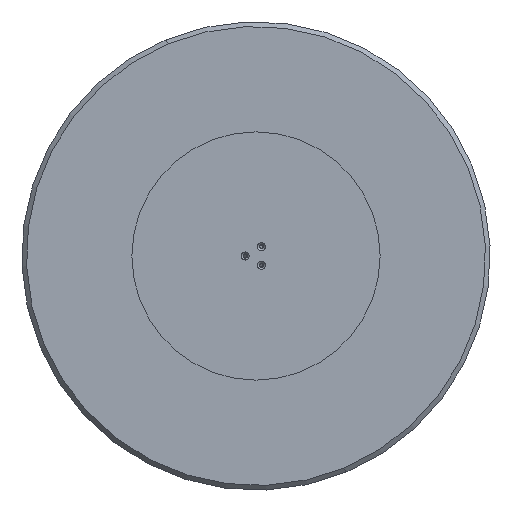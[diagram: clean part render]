
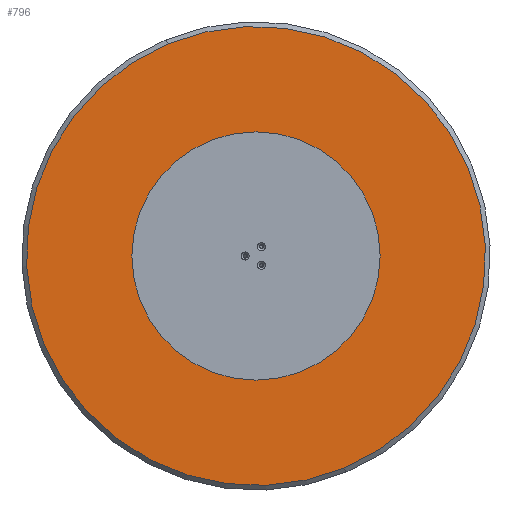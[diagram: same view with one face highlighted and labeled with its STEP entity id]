
A CAD part, front view. The second image highlights one B-rep face of the part: STEP entity #796.
In plain terms, the highlighted planar face has unit normal (0, -1, 0).
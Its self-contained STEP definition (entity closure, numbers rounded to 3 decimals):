
#26 = DIRECTION ( 'NONE',  ( 0., 0., -1. ) ) ;
#27 = DIRECTION ( 'NONE',  ( 0., -1., 0. ) ) ;
#195 = FACE_OUTER_BOUND ( 'NONE', #6294, .T. ) ;
#264 = CARTESIAN_POINT ( 'NONE',  ( 0., 0., 490. ) ) ;
#293 = PLANE ( 'NONE',  #2758 ) ;
#422 = DIRECTION ( 'NONE',  ( 0., -1., 0. ) ) ;
#461 = VERTEX_POINT ( 'NONE', #4351 ) ;
#732 = VERTEX_POINT ( 'NONE', #3733 ) ;
#742 = DIRECTION ( 'NONE',  ( 0., -1., 0. ) ) ;
#796 = ADVANCED_FACE ( 'NONE', ( #4154, #1210, #6166, #2268, #195 ), #293, .T. ) ;
#801 = VERTEX_POINT ( 'NONE', #264 ) ;
#863 = DIRECTION ( 'NONE',  ( 0., 0., -1. ) ) ;
#889 = CARTESIAN_POINT ( 'NONE',  ( -95., 0., -54.848 ) ) ;
#890 = ORIENTED_EDGE ( 'NONE', *, *, #3340, .F. ) ;
#949 = EDGE_LOOP ( 'NONE', ( #4173, #890 ) ) ;
#972 = CARTESIAN_POINT ( 'NONE',  ( 0., 0., 113.097 ) ) ;
#1088 = CARTESIAN_POINT ( 'NONE',  ( 95., 0., -58.248 ) ) ;
#1108 = CARTESIAN_POINT ( 'NONE',  ( 0., 0., 0. ) ) ;
#1210 = FACE_BOUND ( 'NONE', #1695, .T. ) ;
#1348 = EDGE_LOOP ( 'NONE', ( #4371, #5926 ) ) ;
#1354 = CARTESIAN_POINT ( 'NONE',  ( 0., 0., 0. ) ) ;
#1372 = CARTESIAN_POINT ( 'NONE',  ( -95., 0., -51.448 ) ) ;
#1449 = EDGE_CURVE ( 'NONE', #461, #3906, #2437, .T. ) ;
#1593 = VERTEX_POINT ( 'NONE', #5507 ) ;
#1674 = CARTESIAN_POINT ( 'NONE',  ( 0., 0., 109.697 ) ) ;
#1684 = DIRECTION ( 'NONE',  ( 0., -1., 0. ) ) ;
#1695 = EDGE_LOOP ( 'NONE', ( #3586, #4366 ) ) ;
#1733 = CARTESIAN_POINT ( 'NONE',  ( 0., 0., 0. ) ) ;
#1823 = AXIS2_PLACEMENT_3D ( 'NONE', #5664, #5755, #2739 ) ;
#1917 = CIRCLE ( 'NONE', #2751, 490. ) ;
#1931 = CIRCLE ( 'NONE', #4812, 3.4 ) ;
#1942 = DIRECTION ( 'NONE',  ( 0., 0., -1. ) ) ;
#1950 = CARTESIAN_POINT ( 'NONE',  ( 0., 0., -3.4 ) ) ;
#1967 = DIRECTION ( 'NONE',  ( 0., -1., 0. ) ) ;
#2143 = DIRECTION ( 'NONE',  ( 0., 0., -1. ) ) ;
#2257 = AXIS2_PLACEMENT_3D ( 'NONE', #1733, #742, #863 ) ;
#2268 = FACE_BOUND ( 'NONE', #3433, .T. ) ;
#2437 = CIRCLE ( 'NONE', #3354, 3.4 ) ;
#2453 = DIRECTION ( 'NONE',  ( 0., -1., 0. ) ) ;
#2486 = VERTEX_POINT ( 'NONE', #4406 ) ;
#2664 = CARTESIAN_POINT ( 'NONE',  ( 0., 0., 0. ) ) ;
#2739 = DIRECTION ( 'NONE',  ( 0., 0., -1. ) ) ;
#2751 = AXIS2_PLACEMENT_3D ( 'NONE', #2936, #2453, #26 ) ;
#2758 = AXIS2_PLACEMENT_3D ( 'NONE', #2664, #5584, #2143 ) ;
#2885 = VERTEX_POINT ( 'NONE', #972 ) ;
#2936 = CARTESIAN_POINT ( 'NONE',  ( 0., 0., 0. ) ) ;
#2940 = EDGE_CURVE ( 'NONE', #2486, #801, #1917, .T. ) ;
#2963 = CARTESIAN_POINT ( 'NONE',  ( -95., 0., -54.848 ) ) ;
#2983 = EDGE_CURVE ( 'NONE', #1593, #2885, #3566, .T. ) ;
#3191 = CIRCLE ( 'NONE', #6069, 3.4 ) ;
#3200 = DIRECTION ( 'NONE',  ( 0., 0., -1. ) ) ;
#3221 = DIRECTION ( 'NONE',  ( 0., 0., -1. ) ) ;
#3225 = EDGE_CURVE ( 'NONE', #3906, #461, #3273, .T. ) ;
#3273 = CIRCLE ( 'NONE', #1823, 3.4 ) ;
#3328 = DIRECTION ( 'NONE',  ( 0., 0., -1. ) ) ;
#3340 = EDGE_CURVE ( 'NONE', #2885, #1593, #1931, .T. ) ;
#3354 = AXIS2_PLACEMENT_3D ( 'NONE', #3526, #27, #1942 ) ;
#3433 = EDGE_LOOP ( 'NONE', ( #3951, #5559 ) ) ;
#3499 = CIRCLE ( 'NONE', #2257, 490. ) ;
#3526 = CARTESIAN_POINT ( 'NONE',  ( 95., 0., -54.848 ) ) ;
#3541 = CARTESIAN_POINT ( 'NONE',  ( 0., 0., 3.4 ) ) ;
#3566 = CIRCLE ( 'NONE', #6335, 3.4 ) ;
#3586 = ORIENTED_EDGE ( 'NONE', *, *, #3225, .F. ) ;
#3611 = CIRCLE ( 'NONE', #4021, 3.4 ) ;
#3644 = DIRECTION ( 'NONE',  ( 0., -1., 0. ) ) ;
#3733 = CARTESIAN_POINT ( 'NONE',  ( -95., 0., -58.248 ) ) ;
#3761 = VERTEX_POINT ( 'NONE', #1372 ) ;
#3906 = VERTEX_POINT ( 'NONE', #1088 ) ;
#3938 = DIRECTION ( 'NONE',  ( 0., 0., -1. ) ) ;
#3951 = ORIENTED_EDGE ( 'NONE', *, *, #4836, .F. ) ;
#4019 = VERTEX_POINT ( 'NONE', #3541 ) ;
#4021 = AXIS2_PLACEMENT_3D ( 'NONE', #889, #422, #5813 ) ;
#4154 = FACE_BOUND ( 'NONE', #1348, .T. ) ;
#4173 = ORIENTED_EDGE ( 'NONE', *, *, #2983, .F. ) ;
#4334 = EDGE_CURVE ( 'NONE', #801, #2486, #3499, .T. ) ;
#4351 = CARTESIAN_POINT ( 'NONE',  ( 95., 0., -51.448 ) ) ;
#4366 = ORIENTED_EDGE ( 'NONE', *, *, #1449, .F. ) ;
#4371 = ORIENTED_EDGE ( 'NONE', *, *, #6217, .F. ) ;
#4392 = ORIENTED_EDGE ( 'NONE', *, *, #4334, .T. ) ;
#4406 = CARTESIAN_POINT ( 'NONE',  ( 0., 0., -490. ) ) ;
#4490 = ORIENTED_EDGE ( 'NONE', *, *, #2940, .T. ) ;
#4566 = VERTEX_POINT ( 'NONE', #1950 ) ;
#4637 = AXIS2_PLACEMENT_3D ( 'NONE', #2963, #1967, #3938 ) ;
#4642 = DIRECTION ( 'NONE',  ( 0., 0., -1. ) ) ;
#4812 = AXIS2_PLACEMENT_3D ( 'NONE', #5696, #5631, #3221 ) ;
#4836 = EDGE_CURVE ( 'NONE', #4566, #4019, #5143, .T. ) ;
#5143 = CIRCLE ( 'NONE', #5339, 3.4 ) ;
#5178 = EDGE_CURVE ( 'NONE', #4019, #4566, #3191, .T. ) ;
#5331 = EDGE_CURVE ( 'NONE', #3761, #732, #5551, .T. ) ;
#5339 = AXIS2_PLACEMENT_3D ( 'NONE', #1108, #1684, #3200 ) ;
#5507 = CARTESIAN_POINT ( 'NONE',  ( 0., 0., 106.297 ) ) ;
#5551 = CIRCLE ( 'NONE', #4637, 3.4 ) ;
#5559 = ORIENTED_EDGE ( 'NONE', *, *, #5178, .F. ) ;
#5584 = DIRECTION ( 'NONE',  ( 0., -1., 0. ) ) ;
#5631 = DIRECTION ( 'NONE',  ( 0., -1., 0. ) ) ;
#5664 = CARTESIAN_POINT ( 'NONE',  ( 95., 0., -54.848 ) ) ;
#5696 = CARTESIAN_POINT ( 'NONE',  ( 0., 0., 109.697 ) ) ;
#5705 = DIRECTION ( 'NONE',  ( 0., -1., 0. ) ) ;
#5755 = DIRECTION ( 'NONE',  ( 0., -1., 0. ) ) ;
#5813 = DIRECTION ( 'NONE',  ( 0., 0., -1. ) ) ;
#5926 = ORIENTED_EDGE ( 'NONE', *, *, #5331, .F. ) ;
#6069 = AXIS2_PLACEMENT_3D ( 'NONE', #1354, #5705, #3328 ) ;
#6166 = FACE_BOUND ( 'NONE', #949, .T. ) ;
#6217 = EDGE_CURVE ( 'NONE', #732, #3761, #3611, .T. ) ;
#6294 = EDGE_LOOP ( 'NONE', ( #4392, #4490 ) ) ;
#6335 = AXIS2_PLACEMENT_3D ( 'NONE', #1674, #3644, #4642 ) ;
